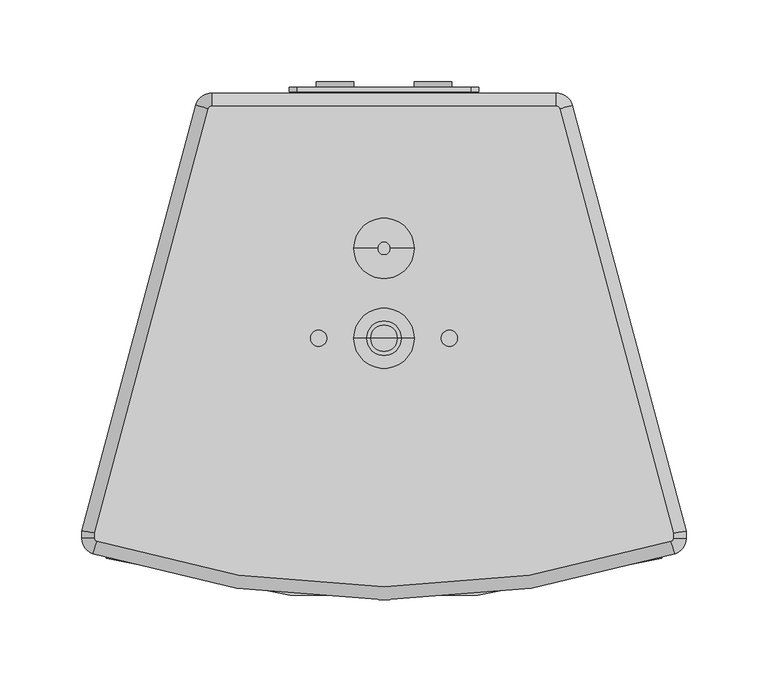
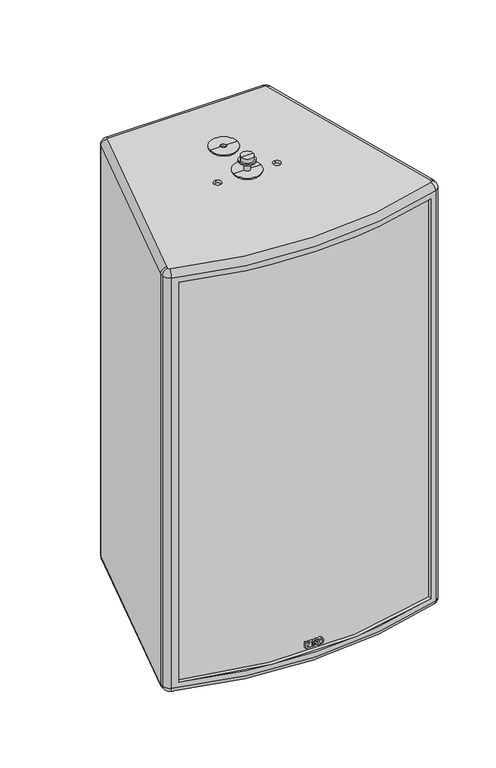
"""IFC4 building model written with IfcOpenShell, lengths in millimetres: proxy geometry, ePS12-HBRK600-WVM : ePS12-HBRK600-WVM."""

from ifc_helpers import new_model, si_unit, point, frame, frame_2d, origin, place, context, project, spatial, polyline, circle_curve, ellipse_curve, trimmed, segment, composite_curve, outline, extrude, source, transform, mapped, element, save
from ifc_brep_helpers import plane_surface, cylinder_surface, revolved_surface, advanced_brep


def generic_models_782d8a53(model_context):
    return source(origin(), model_context, "Body", "SolidModel", [
        extrude(outline(polyline([(-270.5590531, -11.9363528), (-277.8388202, -11.9363528), (-277.8388202, -10.0439855), (-273.6734899, -10.0439855), (-277.8388202, -7.2688886), (-277.8388202, -0.4179789), (-275.963849, 0.9005934), (-274.3643156, -0.1627837), (-276.2361557, -1.5323263), (-276.2361557, -4.5659556), (-274.9818684, -4.5659556), (-274.9818684, -2.2828427), (-273.3791381, -2.2828427), (-273.3791381, -4.5659556), (-272.1626349, -4.5659556), (-272.1626349, -2.1588809), (-271.3626349, -2.1588809), (-270.5599046, -2.6925396), (-270.5599046, -6.9609157), (-275.0099607, -6.9706073), (-270.5590531, -9.9098734), (-270.5590531, -11.9363528)])), frame((0.0, -464.4264204, 0.0), z_axis=(0.0, 1.0, 0.0), x_axis=(0.0, 0.0, 1.0)), (0.0, 0.0, 1.0), 3.5087945),
        extrude(outline(polyline([(-270.5590531, -2.0512245), (-278.8, 3.4273947), (-278.8, 5.6205974), (-270.5590531, 0.1419782), (-270.5590531, -2.0512245)])), frame((0.0, -464.4264204, 0.0), z_axis=(0.0, 1.0, 0.0), x_axis=(0.0, 0.0, 1.0)), (0.0, 0.0, 1.0), 3.5087945),
        extrude(outline(polyline([(-270.5590531, 4.6894095), (-270.5590531, 2.362619), (-271.8270101, 1.6148247), (-273.457904, 2.6990504), (-270.5590531, 4.6894095)])), frame((0.0, -464.4264204, 0.0), z_axis=(0.0, 1.0, 0.0), x_axis=(0.0, 0.0, 1.0)), (0.0, 0.0, 1.0), 3.5087945),
        extrude(outline(composite_curve([segment(trimmed(circle_curve(frame_2d((-274.2298911, 8.0750207)), 3.9406238), [point((-274.2298911, 4.1343969))], [point((-274.2298911, 12.0156446))], False, "CARTESIAN"), True, "CONTINUOUS"), segment(trimmed(circle_curve(frame_2d((-274.2298911, 8.0750207)), 3.9406238), [point((-274.2298911, 12.0156446))], [point((-274.2298911, 4.1343969))], False, "CARTESIAN"), True, "CONTINUOUS")], self_intersect=False), holes=[composite_curve([segment(trimmed(circle_curve(frame_2d((-274.2298911, 8.0750207)), 2.0681078), [point((-274.2298911, 6.0069129))], [point((-274.2298911, 10.1431285))], True, "CARTESIAN"), True, "CONTINUOUS"), segment(trimmed(circle_curve(frame_2d((-274.2298911, 8.0750207)), 2.0681078), [point((-274.2298911, 10.1431285))], [point((-274.2298911, 6.0069129))], True, "CARTESIAN"), True, "CONTINUOUS")], self_intersect=False)]), frame((0.0, -464.4264204, 0.0), z_axis=(0.0, 1.0, 0.0), x_axis=(0.0, 0.0, 1.0)), (0.0, 0.0, 1.0), 3.5087945),
        extrude(outline(composite_curve([segment(trimmed(circle_curve(frame_2d((-262.5, 30.0)), 11.4515227), [point((-262.5, 41.4515227))], [point((-262.5, 18.5484773))], False, "CARTESIAN"), True, "CONTINUOUS"), segment(trimmed(circle_curve(frame_2d((-262.5, 30.0)), 11.4515227), [point((-262.5, 18.5484773))], [point((-262.5, 41.4515227))], False, "CARTESIAN"), True, "CONTINUOUS")], self_intersect=False), holes=[composite_curve([segment(trimmed(circle_curve(frame_2d((-262.5, 30.0)), 5.0), [point((-262.5, 35.0))], [point((-262.5, 25.0))], True, "CARTESIAN"), True, "CONTINUOUS"), segment(trimmed(circle_curve(frame_2d((-262.5, 30.0)), 5.0), [point((-262.5, 25.0))], [point((-262.5, 35.0))], True, "CARTESIAN"), True, "CONTINUOUS")], self_intersect=False)]), frame((0.0, -152.901166, 0.0), z_axis=(0.0, 1.0, 0.0), x_axis=(0.0, 0.0, 1.0)), (0.0, 0.0, 1.0), 3.4052646),
        extrude(outline(composite_curve([segment(trimmed(circle_curve(frame_2d((-262.5, -30.0)), 11.4515227), [point((-262.5, -18.5484773))], [point((-262.5, -41.4515227))], False, "CARTESIAN"), True, "CONTINUOUS"), segment(trimmed(circle_curve(frame_2d((-262.5, -30.0)), 11.4515227), [point((-262.5, -41.4515227))], [point((-262.5, -18.5484773))], False, "CARTESIAN"), True, "CONTINUOUS")], self_intersect=False), holes=[composite_curve([segment(trimmed(circle_curve(frame_2d((-262.5, -30.0)), 5.0), [point((-262.5, -25.0))], [point((-262.5, -35.0))], True, "CARTESIAN"), True, "CONTINUOUS"), segment(trimmed(circle_curve(frame_2d((-262.5, -30.0)), 5.0), [point((-262.5, -35.0))], [point((-262.5, -25.0))], True, "CARTESIAN"), True, "CONTINUOUS")], self_intersect=False)]), frame((0.0, -152.901166, 0.0), z_axis=(0.0, 1.0, 0.0), x_axis=(0.0, 0.0, 1.0)), (0.0, 0.0, 1.0), 3.4052646),
        extrude(outline(composite_curve([segment(polyline([(-243.5, 53.0), (-243.5, -53.0)]), True, "CONTINUOUS"), segment(trimmed(circle_curve(frame_2d((-248.5, -53.0)), 5.0), [point((-243.5, -53.0))], [point((-248.5, -58.0))], False, "CARTESIAN"), True, "CONTINUOUS"), segment(polyline([(-248.5, -58.0), (-276.5, -58.0)]), True, "CONTINUOUS"), segment(trimmed(circle_curve(frame_2d((-276.5, -53.0)), 5.0), [point((-276.5, -58.0))], [point((-281.5, -53.0))], False, "CARTESIAN"), True, "CONTINUOUS"), segment(polyline([(-281.5, -53.0), (-281.5, 53.0)]), True, "CONTINUOUS"), segment(trimmed(circle_curve(frame_2d((-276.5, 53.0)), 5.0), [point((-281.5, 53.0))], [point((-276.5, 58.0))], False, "CARTESIAN"), True, "CONTINUOUS"), segment(polyline([(-276.5, 58.0), (-248.5, 58.0)]), True, "CONTINUOUS"), segment(trimmed(circle_curve(frame_2d((-248.5, 53.0)), 5.0), [point((-248.5, 58.0))], [point((-243.5, 53.0))], False, "CARTESIAN"), True, "CONTINUOUS")], self_intersect=False)), frame((0.0, -155.401166, 0.0), z_axis=(0.0, 1.0, 0.0), x_axis=(0.0, 0.0, 1.0)), (0.0, 0.0, 1.0), 2.5),
        advanced_brep(
        [(107.4481982, -166.0260055, 300.0), (105.5163465, -164.5436436, 300.0), (-105.5163465, -164.5436436, 300.0), (-107.4481982, -166.0260055, 300.0), (-177.0, -425.5968636, 300.0), (-177.0, -428.8218276, 300.0), (-175.6180478, -430.7239362, 300.0), (175.6180478, -430.7239362, 300.0), (177.0, -428.8218276, 300.0), (177.0, -425.5968636, 300.0), (0.0, -311.4959014, 300.0), (0.0, -301.4959014, 300.0), (-40.0, -311.4959014, 300.0), (-40.0, -301.4959014, 300.0), (40.0, -311.4959014, 300.0), (40.0, -301.4959014, 300.0), (105.5163465, -164.5436436, -300.0), (107.4481982, -166.0260055, -300.0), (177.0, -425.5968636, -300.0), (177.0, -428.8218276, -300.0), (175.6180478, -430.7239362, -300.0), (-175.6180478, -430.7239362, -300.0), (-177.0, -428.8218276, -300.0), (-177.0, -425.5968636, -300.0), (-107.4481982, -166.0260055, -300.0), (-105.5163465, -164.5436436, -300.0), (0.0, -301.4959014, -300.0), (0.0, -311.4959014, -300.0), (-40.0, -301.4959014, -300.0), (-40.0, -311.4959014, -300.0), (40.0, -301.4959014, -300.0), (40.0, -311.4959014, -300.0), (0.0, -301.4959014, 296.0), (0.0, -311.4959014, 296.0), (-40.0, -301.4959014, 296.0), (-40.0, -311.4959014, 296.0), (40.0, -301.4959014, 296.0), (40.0, -311.4959014, 296.0), (-170.0, -440.8954117, 285.0), (-170.0, -435.7115752, 285.0), (170.0, -435.7115752, 285.0), (170.0, -440.8954117, 285.0), (170.0, -440.8954117, -285.0), (170.0, -435.7115752, -285.0), (-170.0, -435.7115752, -285.0), (-170.0, -440.8954117, -285.0), (0.0, -301.4959014, -296.0), (0.0, -311.4959014, -296.0), (-40.0, -301.4959014, -296.0), (-40.0, -311.4959014, -296.0), (40.0, -301.4959014, -296.0), (40.0, -311.4959014, -296.0), (-29.3432823, -161.4959014, 0.0), (-40.6566026, -161.4959014, 0.0), (40.6567177, -161.4959014, 0.0), (29.3433974, -161.4959014, 0.0), (-29.3432823, -161.4959014, 70.0), (-40.6566026, -161.4959014, 70.0), (-40.6566026, -156.5436436, 0.0), (-29.3432823, -156.5436436, 0.0), (29.3433974, -156.5436436, 0.0), (40.6567177, -156.5436436, 0.0), (-105.5163465, -156.5436436, 292.0), (105.5163465, -156.5436436, 292.0), (105.5163465, -156.5436436, -292.0000078), (-105.5163465, -156.5436436, -292.0), (-40.6566026, -156.5436436, 70.0), (-29.3432823, -156.5436436, 70.0), (-115.1756048, -163.9554532, 292.0), (-115.1756048, -163.9554532, -292.0), (-185.0, -424.5436436, 292.0), (-185.0, -424.5436436, -292.0), (-185.0, -428.8218276, 292.0), (-185.0, -428.8218276, -292.0), (178.0902391, -438.3323703, 292.0), (-178.0902391, -438.3323703, 292.0), (-178.0902391, -438.3323703, -292.0000037), (178.0902391, -438.3323703, -292.0), (185.0, -424.5436436, 292.0), (185.0, -428.8218276, 292.0), (185.0, -428.8218276, -292.0), (185.0, -424.5436436, -292.0), (115.1756048, -163.9554532, 292.0), (115.1756048, -163.9554532, -292.0)],
        [
            (0, 1, circle_curve(frame((105.5163465, -166.5436436, 300.0), z_axis=(0.0, 0.0, 1.0), x_axis=(0.0, 1.0, 0.0)), 2.0)),
            (1, 2),
            (2, 3, circle_curve(frame((-105.5163465, -166.5436436, 300.0), z_axis=(0.0, 0.0, 1.0), x_axis=(-0.965925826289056, 0.25881904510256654, 0.0)), 2.0)),
            (3, 4),
            (4, 5),
            (5, 6, circle_curve(frame((-175.0, -428.8218276, 300.0), z_axis=(0.0, 0.0, 1.0), x_axis=(-0.3090239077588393, -0.9510542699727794, 0.0)), 2.0)),
            (6, 7, circle_curve(frame((0.0, 109.75947, 300.0), z_axis=(0.0, 0.0, 1.0), x_axis=(0.3090239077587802, -0.9510542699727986, 0.0)), 568.2992267)),
            (7, 8, circle_curve(frame((175.0, -428.8218276, 300.0), z_axis=(0.0, 0.0, 1.0), x_axis=(1.0, 0.0, 0.0)), 2.0)),
            (8, 9),
            (9, 0),
            (10, 11, circle_curve(frame((0.0, -306.4959014, 300.0), z_axis=(0.0, 0.0, -1.0), x_axis=(0.0, -1.0, 0.0)), 5.0)),
            (11, 10, circle_curve(frame((0.0, -306.4959014, 300.0), z_axis=(0.0, 0.0, -1.0), x_axis=(0.0, -1.0, 0.0)), 5.0)),
            (12, 13, circle_curve(frame((-40.0, -306.4959014, 300.0), z_axis=(0.0, 0.0, -1.0), x_axis=(0.0, -1.0, 0.0)), 5.0)),
            (13, 12, circle_curve(frame((-40.0, -306.4959014, 300.0), z_axis=(0.0, 0.0, -1.0), x_axis=(0.0, -1.0, 0.0)), 5.0)),
            (14, 15, circle_curve(frame((40.0, -306.4959014, 300.0), z_axis=(0.0, 0.0, -1.0), x_axis=(0.0, -1.0, 0.0)), 5.0)),
            (15, 14, circle_curve(frame((40.0, -306.4959014, 300.0), z_axis=(0.0, 0.0, -1.0), x_axis=(0.0, -1.0, 0.0)), 5.0)),
            (16, 17, circle_curve(frame((105.5163465, -166.5436436, -300.0), z_axis=(0.0, 0.0, -1.0), x_axis=(0.0, 1.0, 0.0)), 2.0)),
            (17, 18),
            (18, 19),
            (19, 20, circle_curve(frame((175.0, -428.8218276, -300.0), z_axis=(0.0, 0.0, -1.0), x_axis=(1.0, 0.0, 0.0)), 2.0)),
            (20, 21, circle_curve(frame((0.0, 109.75947, -300.0), z_axis=(0.0, 0.0, -1.0), x_axis=(0.3090239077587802, -0.9510542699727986, 0.0)), 568.2992267)),
            (21, 22, circle_curve(frame((-175.0, -428.8218276, -300.0), z_axis=(0.0, 0.0, -1.0), x_axis=(-0.3090239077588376, -0.95105426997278, 0.0)), 2.0)),
            (22, 23),
            (23, 24),
            (24, 25, circle_curve(frame((-105.5163465, -166.5436436, -300.0), z_axis=(0.0, 0.0, -1.0), x_axis=(-0.9659258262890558, 0.2588190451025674, 0.0)), 2.0)),
            (25, 16),
            (26, 27, circle_curve(frame((0.0, -306.4959014, -300.0), z_axis=(0.0, 0.0, 1.0), x_axis=(0.0, -1.0, 0.0)), 5.0)),
            (27, 26, circle_curve(frame((0.0, -306.4959014, -300.0), z_axis=(0.0, 0.0, 1.0), x_axis=(0.0, -1.0, 0.0)), 5.0)),
            (28, 29, circle_curve(frame((-40.0, -306.4959014, -300.0), z_axis=(0.0, 0.0, 1.0), x_axis=(0.0, -1.0, 0.0)), 5.0)),
            (29, 28, circle_curve(frame((-40.0, -306.4959014, -300.0), z_axis=(0.0, 0.0, 1.0), x_axis=(0.0, -1.0, 0.0)), 5.0)),
            (30, 31, circle_curve(frame((40.0, -306.4959014, -300.0), z_axis=(0.0, 0.0, 1.0), x_axis=(0.0, -1.0, 0.0)), 5.0)),
            (31, 30, circle_curve(frame((40.0, -306.4959014, -300.0), z_axis=(0.0, 0.0, 1.0), x_axis=(0.0, -1.0, 0.0)), 5.0)),
            (32, 33, circle_curve(frame((0.0, -306.4959014, 296.0), z_axis=(0.0, 0.0, 1.0), x_axis=(0.0, -1.0, 0.0)), 5.0)),
            (33, 32, circle_curve(frame((0.0, -306.4959014, 296.0), z_axis=(0.0, 0.0, 1.0), x_axis=(0.0, -1.0, 0.0)), 5.0)),
            (34, 35, circle_curve(frame((-40.0, -306.4959014, 296.0), z_axis=(0.0, 0.0, 1.0), x_axis=(0.0, -1.0, 0.0)), 5.0)),
            (35, 34, circle_curve(frame((-40.0, -306.4959014, 296.0), z_axis=(0.0, 0.0, 1.0), x_axis=(0.0, -1.0, 0.0)), 5.0)),
            (36, 37, circle_curve(frame((40.0, -306.4959014, 296.0), z_axis=(0.0, 0.0, 1.0), x_axis=(0.0, -1.0, 0.0)), 5.0)),
            (37, 36, circle_curve(frame((40.0, -306.4959014, 296.0), z_axis=(0.0, 0.0, 1.0), x_axis=(0.0, -1.0, 0.0)), 5.0)),
            (32, 11),
            (10, 33),
            (34, 13),
            (12, 35),
            (36, 15),
            (14, 37),
            (38, 39),
            (39, 40, circle_curve(frame((0.0, 116.2605092, 285.0), z_axis=(0.0, 0.0, 1.0), x_axis=(1.0, 0.0, 0.0)), 577.5579469)),
            (40, 41),
            (41, 38, circle_curve(frame((0.0, 109.75947, 285.0), z_axis=(0.0, 0.0, -1.0), x_axis=(1.0, 0.0, 0.0)), 576.2992267)),
            (42, 43),
            (43, 44, circle_curve(frame((0.0, 116.2605092, -285.0), z_axis=(0.0, 0.0, -1.0), x_axis=(1.0, 0.0, 0.0)), 577.5579469)),
            (44, 45),
            (45, 42, circle_curve(frame((0.0, 109.75947, -285.0), z_axis=(0.0, 0.0, 1.0), x_axis=(1.0, 0.0, 0.0)), 576.2992267)),
            (46, 47, circle_curve(frame((0.0, -306.4959014, -296.0), z_axis=(0.0, 0.0, -1.0), x_axis=(0.0, -1.0, 0.0)), 5.0)),
            (47, 46, circle_curve(frame((0.0, -306.4959014, -296.0), z_axis=(0.0, 0.0, -1.0), x_axis=(0.0, -1.0, 0.0)), 5.0)),
            (48, 49, circle_curve(frame((-40.0, -306.4959014, -296.0), z_axis=(0.0, 0.0, -1.0), x_axis=(0.0, -1.0, 0.0)), 5.0)),
            (49, 48, circle_curve(frame((-40.0, -306.4959014, -296.0), z_axis=(0.0, 0.0, -1.0), x_axis=(0.0, -1.0, 0.0)), 5.0)),
            (50, 51, circle_curve(frame((40.0, -306.4959014, -296.0), z_axis=(0.0, 0.0, -1.0), x_axis=(0.0, -1.0, 0.0)), 5.0)),
            (51, 50, circle_curve(frame((40.0, -306.4959014, -296.0), z_axis=(0.0, 0.0, -1.0), x_axis=(0.0, -1.0, 0.0)), 5.0)),
            (47, 27),
            (26, 46),
            (49, 29),
            (28, 48),
            (51, 31),
            (30, 50),
            (52, 53, circle_curve(frame((-34.9999424, -161.4959014, 0.0), z_axis=(0.0, 1.0, 0.0), x_axis=(-1.0, 0.0, 0.0)), 5.6566602)),
            (53, 52, circle_curve(frame((-34.9999424, -161.4959014, 0.0), z_axis=(0.0, 1.0, 0.0), x_axis=(-1.0, 0.0, 0.0)), 5.6566602)),
            (54, 55, circle_curve(frame((35.0000576, -161.4959014, 0.0), z_axis=(0.0, 1.0, 0.0), x_axis=(-1.0, 0.0, 0.0)), 5.6566602)),
            (55, 54, circle_curve(frame((35.0000576, -161.4959014, 0.0), z_axis=(0.0, 1.0, 0.0), x_axis=(-1.0, 0.0, 0.0)), 5.6566602)),
            (56, 57, circle_curve(frame((-34.9999424, -161.4959014, 70.0), z_axis=(0.0, 1.0, 0.0), x_axis=(-1.0, 0.0, 0.0)), 5.6566602)),
            (57, 56, circle_curve(frame((-34.9999424, -161.4959014, 70.0), z_axis=(0.0, 1.0, 0.0), x_axis=(-1.0, 0.0, 0.0)), 5.6566602)),
            (53, 58),
            (58, 59, circle_curve(frame((-34.9999424, -156.5436436, 0.0), z_axis=(0.0, 1.0, 0.0), x_axis=(-1.0, 0.0, 0.0)), 5.6566602)),
            (59, 52),
            (59, 58, circle_curve(frame((-34.9999424, -156.5436436, 0.0), z_axis=(0.0, 1.0, 0.0), x_axis=(-1.0, 0.0, 0.0)), 5.6566602)),
            (55, 60),
            (60, 61, circle_curve(frame((35.0000576, -156.5436436, 0.0), z_axis=(0.0, 1.0, 0.0), x_axis=(-1.0, 0.0, 0.0)), 5.6566602)),
            (61, 54),
            (61, 60, circle_curve(frame((35.0000576, -156.5436436, 0.0), z_axis=(0.0, 1.0, 0.0), x_axis=(-1.0, 0.0, 0.0)), 5.6566602)),
            (62, 63),
            (63, 64),
            (64, 65),
            (65, 62),
            (66, 67, circle_curve(frame((-34.9999424, -156.5436436, 70.0), z_axis=(0.0, -1.0, 0.0), x_axis=(-1.0, 0.0, 0.0)), 5.6566602)),
            (67, 66, circle_curve(frame((-34.9999424, -156.5436436, 70.0), z_axis=(0.0, -1.0, 0.0), x_axis=(-1.0, 0.0, 0.0)), 5.6566602)),
            (68, 62, circle_curve(frame((-105.5163465, -166.5436436, 292.0), z_axis=(0.0, 0.0, -1.0), x_axis=(1.0, 0.0, 0.0)), 10.0)),
            (65, 69, circle_curve(frame((-105.5163465, -166.5436436, -292.0), z_axis=(0.0, 0.0, 1.0), x_axis=(1.0, 0.0, 0.0)), 10.0)),
            (69, 68),
            (70, 68),
            (69, 71),
            (71, 70),
            (72, 70),
            (71, 73),
            (73, 72),
            (74, 75, circle_curve(frame((0.0, 109.75947, 292.0), z_axis=(0.0, 0.0, -1.0), x_axis=(1.0, 0.0, 0.0)), 576.2992267)),
            (75, 76),
            (76, 77, circle_curve(frame((0.0, 109.75947, -292.0), z_axis=(0.0, 0.0, 1.0), x_axis=(1.0, 0.0, 0.0)), 576.2992267)),
            (77, 74),
            (41, 42),
            (45, 38),
            (78, 79),
            (79, 80),
            (80, 81),
            (81, 78),
            (82, 78),
            (81, 83),
            (83, 82),
            (63, 82, circle_curve(frame((105.5163465, -166.5436436, 292.0), z_axis=(0.0, 0.0, -1.0), x_axis=(1.0, 0.0, 0.0)), 10.0)),
            (83, 64, circle_curve(frame((105.5163465, -166.5436436, -292.0), z_axis=(0.0, 0.0, 1.0), x_axis=(1.0, 0.0, 0.0)), 10.0)),
            (56, 67),
            (66, 57),
            (40, 43),
            (39, 44),
            (75, 72, circle_curve(frame((-175.0, -428.8218276, 292.0), z_axis=(0.0, 0.0, -1.0), x_axis=(1.0, 0.0, 0.0)), 10.0)),
            (73, 76, circle_curve(frame((-175.0, -428.8218276, -292.0), z_axis=(0.0, 0.0, 1.0), x_axis=(1.0, 0.0, 0.0)), 10.0)),
            (79, 74, circle_curve(frame((175.0, -428.8218276, 292.0), z_axis=(0.0, 0.0, -1.0), x_axis=(1.0, 0.0, 0.0)), 10.0)),
            (77, 80, circle_curve(frame((175.0, -428.8218276, -292.0), z_axis=(0.0, 0.0, 1.0), x_axis=(1.0, 0.0, 0.0)), 10.0)),
            (0, 82, circle_curve(frame((107.4481982, -166.0260055, 292.0), z_axis=(-0.2588190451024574, 0.9659258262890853, 0.0), x_axis=(0.9659258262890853, 0.2588190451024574, 0.0)), 8.0)),
            (63, 1, circle_curve(frame((105.5163465, -164.5436436, 292.0), z_axis=(1.0, 0.0, 0.0), x_axis=(0.0, 1.0, 0.0)), 8.0)),
            (9, 78, ellipse_curve(frame((177.0, -425.5968636, 292.0), z_axis=(-0.1305261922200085, 0.9914448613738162, 0.0), x_axis=(0.991444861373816, 0.13052619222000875, 0.0)), 8.0690317, 8.0)),
            (8, 79, circle_curve(frame((177.0, -428.8218276, 292.0), z_axis=(0.0, 1.0, 0.0), x_axis=(1.0, 0.0, 0.0)), 8.0)),
            (7, 74, circle_curve(frame((175.6180478, -430.7239362, 292.0), z_axis=(0.9510542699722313, 0.3090239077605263, 0.0), x_axis=(0.3090239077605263, -0.9510542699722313, 0.0)), 8.0)),
            (6, 75, circle_curve(frame((-175.6180478, -430.7239362, 292.0), z_axis=(0.951054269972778, -0.3090239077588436, 0.0), x_axis=(-0.3090239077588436, -0.951054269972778, 0.0)), 8.0)),
            (5, 72, circle_curve(frame((-177.0, -428.8218276, 292.0), z_axis=(0.0, -1.0, 0.0), x_axis=(-1.0, 0.0, 0.0)), 8.0)),
            (4, 70, ellipse_curve(frame((-177.0, -425.5968636, 292.0), z_axis=(-0.13052619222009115, -0.9914448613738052, 0.0), x_axis=(-0.9914448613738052, 0.13052619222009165, 0.0)), 8.0690317, 8.0)),
            (3, 68, circle_curve(frame((-107.4481982, -166.0260055, 292.0), z_axis=(-0.2588190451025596, -0.9659258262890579, 0.0), x_axis=(-0.9659258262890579, 0.2588190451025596, 0.0)), 8.0)),
            (2, 62, circle_curve(frame((-105.5163465, -164.5436436, 292.0), z_axis=(-1.0, 0.0, 0.0), x_axis=(0.0, 1.0, 0.0)), 8.0)),
            (83, 17, circle_curve(frame((107.4481982, -166.0260055, -292.0), z_axis=(-0.2588190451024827, 0.9659258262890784, 0.0), x_axis=(0.9659258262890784, 0.2588190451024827, 0.0)), 8.0)),
            (16, 64, circle_curve(frame((105.5163465, -164.5436436, -292.0), z_axis=(1.0, 0.0, 0.0), x_axis=(0.0, 1.0, 0.0)), 8.0)),
            (81, 18, ellipse_curve(frame((177.0, -425.5968636, -292.0), z_axis=(-0.13052619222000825, 0.9914448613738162, 0.0), x_axis=(0.991444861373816, 0.13052619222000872, 0.0)), 8.0690317, 8.0)),
            (80, 19, circle_curve(frame((177.0, -428.8218276, -292.0), z_axis=(0.0, 1.0, 0.0), x_axis=(1.0, 0.0, 0.0)), 8.0)),
            (77, 20, circle_curve(frame((175.6180478, -430.7239362, -292.0), z_axis=(0.9510542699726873, 0.30902390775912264, 0.0), x_axis=(0.30902390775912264, -0.9510542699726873, 0.0)), 8.0)),
            (76, 21, circle_curve(frame((-175.6180478, -430.7239362, -292.0), z_axis=(0.951054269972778, -0.3090239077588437, 0.0), x_axis=(-0.3090239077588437, -0.951054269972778, 0.0)), 8.0)),
            (73, 22, circle_curve(frame((-177.0, -428.8218276, -292.0), z_axis=(0.0, -1.0, 0.0), x_axis=(-1.0, 0.0, 0.0)), 8.0)),
            (71, 23, ellipse_curve(frame((-177.0, -425.5968636, -292.0), z_axis=(-0.13052619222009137, -0.9914448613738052, 0.0), x_axis=(-0.9914448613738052, 0.13052619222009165, 0.0)), 8.0690317, 8.0)),
            (69, 24, circle_curve(frame((-107.4481982, -166.0260055, -292.0), z_axis=(-0.2588190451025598, -0.9659258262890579, 0.0), x_axis=(-0.9659258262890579, 0.2588190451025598, 0.0)), 8.0)),
            (65, 25, circle_curve(frame((-105.5163465, -164.5436436, -292.0), z_axis=(-1.0, 0.0, 0.0), x_axis=(0.0, 1.0, 0.0)), 8.0)),
        ],
        [
            plane_surface(frame((-111.6724223, -156.5436436, 300.0), z_axis=(0.0, 0.0, 1.0), x_axis=(-1.0, 0.0, 0.0))),
            plane_surface(frame((-111.6724223, -156.5436436, -300.0), z_axis=(0.0, 0.0, -1.0), x_axis=(1.0, 0.0, 0.0))),
            plane_surface(frame((0.0, -311.4959014, 296.0), z_axis=(0.0, 0.0, 1.0), x_axis=(-1.0, 0.0, 0.0))),
            revolved_surface(polyline([(0.0, -311.4959014, 300.0), (0.0, -311.4959014, 296.0)]), (0.0, -306.4959014, 296.0), (0.0, 0.0, 1.0)),
            revolved_surface(polyline([(-40.0, -311.4959014, 300.0), (-40.0, -311.4959014, 296.0)]), (-40.0, -306.4959014, 300.0), (0.0, 0.0, 1.0)),
            revolved_surface(polyline([(40.0, -311.4959014, 300.0), (40.0, -311.4959014, 296.0)]), (40.0, -306.4959014, 300.0), (0.0, 0.0, 1.0)),
            plane_surface(frame((170.0, -440.8954117, 285.0), z_axis=(0.0, 0.0, -1.0), x_axis=(0.0, 1.0, 0.0))),
            plane_surface(frame((170.0, -440.8954117, -285.0), z_axis=(0.0, 0.0, 1.0), x_axis=(0.0, -1.0, 0.0))),
            plane_surface(frame((0.0, -311.4959014, -296.0), z_axis=(0.0, 0.0, -1.0), x_axis=(1.0, 0.0, 0.0))),
            revolved_surface(polyline([(0.0, -311.4959014, -296.0), (0.0, -311.4959014, -300.0)]), (0.0, -306.4959014, -304.0), (0.0, 0.0, 1.0)),
            revolved_surface(polyline([(-40.0, -311.4959014, -296.0), (-40.0, -311.4959014, -300.0)]), (-40.0, -306.4959014, -300.0), (0.0, 0.0, 1.0)),
            revolved_surface(polyline([(40.0, -311.4959014, -296.0), (40.0, -311.4959014, -300.0)]), (40.0, -306.4959014, -300.0), (0.0, 0.0, 1.0)),
            plane_surface(frame((-40.6566026, -161.4959014, 0.0), z_axis=(0.0, 1.0, 0.0), x_axis=(0.0, 0.0, -1.0))),
            revolved_surface(polyline([(-40.6566026, -156.5436436, 0.0), (-40.6566026, -161.4959014, 0.0)]), (-34.9999424, -161.4959014, 0.0), (0.0, 1.0, 0.0)),
            revolved_surface(polyline([(29.343397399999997, -156.5436436, 0.0), (29.343397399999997, -161.4959014, 0.0)]), (35.0000576, -149.4959014, 0.0), (0.0, 1.0, 0.0)),
            plane_surface(frame((105.5163465, -156.5436436, 300.0), z_axis=(0.0, 1.0, 0.0), x_axis=(0.0, 0.0, -1.0))),
            cylinder_surface(frame((-105.5163465, -166.5436436, -300.0), z_axis=(0.0, 0.0, 1.0), x_axis=(1.0, 0.0, 0.0)), 10.0),
            plane_surface(frame((-115.1756048, -163.9554532, 300.0), z_axis=(-0.9659258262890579, 0.2588190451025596, 0.0), x_axis=(0.0, 0.0, -1.0))),
            plane_surface(frame((-185.0, -424.5436436, 300.0), z_axis=(-1.0, 0.0, 0.0), x_axis=(0.0, 0.0, -1.0))),
            cylinder_surface(frame((0.0, 109.75947, -300.0), z_axis=(0.0, 0.0, 1.0), x_axis=(1.0, 0.0, 0.0)), 576.2992267),
            plane_surface(frame((185.0, -428.8218276, 300.0), z_axis=(1.0, 0.0, 0.0), x_axis=(0.0, 0.0, -1.0))),
            plane_surface(frame((185.0, -424.5436436, 300.0), z_axis=(0.9659258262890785, 0.25881904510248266, 0.0), x_axis=(0.0, 0.0, -1.0))),
            cylinder_surface(frame((105.5163465, -166.5436436, -300.0), z_axis=(0.0, 0.0, 1.0), x_axis=(1.0, 0.0, 0.0)), 10.0),
            revolved_surface(polyline([(-40.6566026, -156.5436436, 70.0), (-40.6566026, -161.4959014, 70.0)]), (-34.9999424, -149.4959014, 70.0), (0.0, 1.0, 0.0)),
            plane_surface(frame((170.0, -440.8954117, 285.0), z_axis=(-1.0, 0.0, 0.0), x_axis=(0.0, 0.0, -1.0))),
            cylinder_surface(frame((0.0, 116.2605092, -285.0), z_axis=(0.0, 0.0, -1.0), x_axis=(1.0, 0.0, 0.0)), 577.5579469),
            plane_surface(frame((-170.0, -435.7115752, 285.0), z_axis=(1.0, 0.0, 0.0), x_axis=(0.0, 0.0, -1.0))),
            cylinder_surface(frame((-175.0, -428.8218276, -300.0), z_axis=(0.0, 0.0, 1.0), x_axis=(1.0, 0.0, 0.0)), 10.0),
            cylinder_surface(frame((175.0, -428.8218276, -300.0), z_axis=(0.0, 0.0, 1.0), x_axis=(1.0, 0.0, 0.0)), 10.0),
            revolved_surface(trimmed(ellipse_curve(frame((105.5163465, -164.5436436, 292.0), z_axis=(-1.0, 0.0, 0.0), x_axis=(0.0, 1.0, 0.0)), 8.0, 8.0), [point((105.5163465, -164.5436436, 300.0))], [point((105.5163465, -156.5436436, 292.0))], True, "CARTESIAN"), (105.5163465, -166.5436436, 300.0), (0.0, 0.0, -1.0)),
            cylinder_surface(frame((107.4481982, -166.0260055, 292.0), z_axis=(0.2588190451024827, -0.9659258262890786, 0.0), x_axis=(0.9659258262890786, 0.2588190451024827, 0.0)), 8.0),
            cylinder_surface(frame((177.0, -424.5436436, 292.0), z_axis=(0.0, -1.0, 0.0), x_axis=(1.0, 0.0, 0.0)), 8.0),
            revolved_surface(trimmed(ellipse_curve(frame((177.0, -428.8218276, 292.0), z_axis=(0.0, 1.0, 0.0), x_axis=(1.0, 0.0, 0.0)), 8.0, 8.0), [point((177.0, -428.8218276, 300.0))], [point((185.0, -428.8218276, 292.0))], True, "CARTESIAN"), (175.0, -428.8218276, 300.0), (0.0, 0.0, -1.0)),
            revolved_surface(trimmed(ellipse_curve(frame((175.6180478, -430.7239362, 292.0), z_axis=(0.9510542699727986, 0.3090239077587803, 0.0), x_axis=(0.3090239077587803, -0.9510542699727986, 0.0)), 8.0, 8.0), [point((175.6180478, -430.7239362, 300.0))], [point((178.0902391, -438.3323703, 292.0))], True, "CARTESIAN"), (0.0, 109.75947, 300.0), (0.0, 0.0, -1.0)),
            revolved_surface(trimmed(ellipse_curve(frame((-175.6180478, -430.7239362, 292.0), z_axis=(0.9510542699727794, -0.3090239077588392, 0.0), x_axis=(-0.3090239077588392, -0.9510542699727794, 0.0)), 8.0, 8.0), [point((-175.6180478, -430.7239362, 300.0))], [point((-178.0902391, -438.3323703, 292.0))], True, "CARTESIAN"), (-175.0, -428.8218276, 300.0), (0.0, 0.0, -1.0)),
            cylinder_surface(frame((-177.0, -428.8218276, 292.0), z_axis=(0.0, 1.0, 0.0), x_axis=(-1.0, 0.0, 0.0)), 8.0),
            cylinder_surface(frame((-177.2725934, -426.614196, 292.0), z_axis=(0.2588190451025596, 0.9659258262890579, 0.0), x_axis=(-0.9659258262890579, 0.2588190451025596, 0.0)), 8.0),
            revolved_surface(trimmed(ellipse_curve(frame((-107.4481982, -166.0260055, 292.0), z_axis=(-0.2588190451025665, -0.965925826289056, 0.0), x_axis=(-0.965925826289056, 0.2588190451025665, 0.0)), 8.0, 8.0), [point((-107.4481982, -166.0260055, 300.0))], [point((-115.1756048, -163.9554532, 292.0))], True, "CARTESIAN"), (-105.5163465, -166.5436436, 300.0), (0.0, 0.0, -1.0)),
            cylinder_surface(frame((-105.5163465, -164.5436436, 292.0), z_axis=(1.0, 0.0, 0.0), x_axis=(0.0, 1.0, 0.0)), 8.0),
            revolved_surface(trimmed(ellipse_curve(frame((105.5163465, -164.5436436, -292.0), z_axis=(-1.0, 0.0, 0.0), x_axis=(0.0, 1.0, 0.0)), 8.0, 8.0), [point((105.5163465, -156.5436436, -292.0))], [point((105.5163465, -164.5436436, -300.0))], True, "CARTESIAN"), (105.5163465, -166.5436436, -300.0), (0.0, 0.0, -1.0)),
            cylinder_surface(frame((107.4481982, -166.0260055, -292.0), z_axis=(0.2588190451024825, -0.9659258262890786, 0.0), x_axis=(0.9659258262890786, 0.2588190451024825, 0.0)), 8.0),
            cylinder_surface(frame((177.0, -424.5436436, -292.0), z_axis=(0.0, -1.0, 0.0), x_axis=(1.0, 0.0, 0.0)), 8.0),
            revolved_surface(trimmed(ellipse_curve(frame((177.0, -428.8218276, -292.0), z_axis=(0.0, 1.0, 0.0), x_axis=(1.0, 0.0, 0.0)), 8.0, 8.0), [point((185.0, -428.8218276, -292.0))], [point((177.0, -428.8218276, -300.0))], True, "CARTESIAN"), (175.0, -428.8218276, -300.0), (0.0, 0.0, -1.0)),
            revolved_surface(trimmed(ellipse_curve(frame((175.6180478, -430.7239362, -292.0), z_axis=(0.9510542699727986, 0.3090239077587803, 0.0), x_axis=(0.3090239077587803, -0.9510542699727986, 0.0)), 8.0, 8.0), [point((178.0902391, -438.3323703, -292.0))], [point((175.6180478, -430.7239362, -300.0))], True, "CARTESIAN"), (0.0, 109.75947, -300.0), (0.0, 0.0, -1.0)),
            revolved_surface(trimmed(ellipse_curve(frame((-175.6180478, -430.7239362, -292.0), z_axis=(0.95105426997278, -0.30902390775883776, 0.0), x_axis=(-0.30902390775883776, -0.95105426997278, 0.0)), 8.0, 8.0), [point((-178.0902391, -438.3323703, -292.0))], [point((-175.6180478, -430.7239362, -300.0))], True, "CARTESIAN"), (-175.0, -428.8218276, -300.0), (0.0, 0.0, -1.0)),
            cylinder_surface(frame((-177.0, -428.8218276, -292.0), z_axis=(0.0, 1.0, 0.0), x_axis=(-1.0, 0.0, 0.0)), 8.0),
            cylinder_surface(frame((-177.2725934, -426.614196, -292.0), z_axis=(0.2588190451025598, 0.9659258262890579, 0.0), x_axis=(-0.9659258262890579, 0.2588190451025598, 0.0)), 8.0),
            revolved_surface(trimmed(ellipse_curve(frame((-107.4481982, -166.0260055, -292.0), z_axis=(-0.2588190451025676, -0.9659258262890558, 0.0), x_axis=(-0.9659258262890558, 0.2588190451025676, 0.0)), 8.0, 8.0), [point((-115.1756048, -163.9554532, -292.0))], [point((-107.4481982, -166.0260055, -300.0))], True, "CARTESIAN"), (-105.5163465, -166.5436436, -300.0), (0.0, 0.0, -1.0)),
            cylinder_surface(frame((-105.5163465, -164.5436436, -292.0), z_axis=(1.0, 0.0, 0.0), x_axis=(0.0, 1.0, 0.0)), 8.0),
        ],
        [
            (0, [[1, 2, 3, 4, 5, 6, 7, 8, 9, 10], [11, 12], [13, 14], [15, 16]]),
            (1, [[17, 18, 19, 20, 21, 22, 23, 24, 25, 26], [27, 28], [29, 30], [31, 32]]),
            (2, [[33, 34]]),
            (2, [[35, 36]]),
            (2, [[37, 38]]),
            (3, [[-33, 39, -11, 40]]),
            (3, [[-34, -40, -12, -39]]),
            (4, [[-35, 41, -13, 42]]),
            (4, [[-36, -42, -14, -41]]),
            (5, [[-37, 43, -15, 44]]),
            (5, [[-38, -44, -16, -43]]),
            (6, [[45, 46, 47, 48]]),
            (7, [[49, 50, 51, 52]]),
            (8, [[53, 54]]),
            (8, [[55, 56]]),
            (8, [[57, 58]]),
            (9, [[-54, 59, -27, 60]]),
            (9, [[-53, -60, -28, -59]]),
            (10, [[-56, 61, -29, 62]]),
            (10, [[-55, -62, -30, -61]]),
            (11, [[-58, 63, -31, 64]]),
            (11, [[-57, -64, -32, -63]]),
            (12, [[65, 66]]),
            (12, [[67, 68]]),
            (12, [[69, 70]]),
            (13, [[-66, 71, 72, 73]]),
            (13, [[-65, -73, 74, -71]]),
            (14, [[-68, 75, 76, 77]]),
            (14, [[-67, -77, 78, -75]]),
            (15, [[79, 80, 81, 82], [-72, -74], [-76, -78], [83, 84]]),
            (16, [[85, -82, 86, 87]]),
            (17, [[88, -87, 89, 90]]),
            (18, [[91, -90, 92, 93]]),
            (19, [[94, 95, 96, 97], [-48, 98, -52, 99]]),
            (20, [[100, 101, 102, 103]]),
            (21, [[104, -103, 105, 106]]),
            (22, [[107, -106, 108, -80]]),
            (23, [[-69, 109, -83, 110]]),
            (23, [[-70, -110, -84, -109]]),
            (24, [[-47, 111, -49, -98]]),
            (25, [[-46, 112, -50, -111]]),
            (26, [[-45, -99, -51, -112]]),
            (27, [[113, -93, 114, -95]]),
            (28, [[115, -97, 116, -101]]),
            (29, [[117, -107, 118, -1]]),
            (30, [[-117, -10, 119, -104]]),
            (31, [[-119, -9, 120, -100]]),
            (32, [[-120, -8, 121, -115]]),
            (33, [[-121, -7, 122, -94]]),
            (34, [[-122, -6, 123, -113]]),
            (35, [[-123, -5, 124, -91]]),
            (36, [[-124, -4, 125, -88]]),
            (37, [[-125, -3, 126, -85]]),
            (38, [[-118, -79, -126, -2]]),
            (39, [[127, -17, 128, -108]]),
            (40, [[-127, -105, 129, -18]]),
            (41, [[-129, -102, 130, -19]]),
            (42, [[-130, -116, 131, -20]]),
            (43, [[-131, -96, 132, -21]]),
            (44, [[-132, -114, 133, -22]]),
            (45, [[-133, -92, 134, -23]]),
            (46, [[-134, -89, 135, -24]]),
            (47, [[-135, -86, 136, -25]]),
            (48, [[-128, -26, -136, -81]]),
        ],
    ),
        advanced_brep(
        [(3.972567, -251.5012591, 305.0), (-3.972567, -251.5012591, 305.0), (-18.442415, -251.5012591, 305.0), (18.442415, -251.5012591, 305.0), (-15.442415, -251.5012591, 302.0), (15.442415, -251.5012591, 302.0), (-3.972567, -251.5012591, 302.0), (3.972567, -251.5012591, 302.0)],
        [
            (0, 1, circle_curve(frame((0.0, -251.5012591, 305.0), z_axis=(0.0, 0.0, -1.0), x_axis=(-1.0, 0.0, 0.0)), 3.972567)),
            (1, 2),
            (2, 3, circle_curve(frame((0.0, -251.5012591, 305.0), z_axis=(0.0, 0.0, 1.0), x_axis=(-1.0, 0.0, 0.0)), 18.442415)),
            (3, 0),
            (1, 0, circle_curve(frame((0.0, -251.5012591, 305.0), z_axis=(0.0, 0.0, -1.0), x_axis=(-1.0, 0.0, 0.0)), 3.972567)),
            (3, 2, circle_curve(frame((0.0, -251.5012591, 305.0), z_axis=(0.0, 0.0, 1.0), x_axis=(-1.0, 0.0, 0.0)), 18.442415)),
            (2, 4, circle_curve(frame((-15.442415, -251.5012591, 305.0), z_axis=(0.0, -1.0, 0.0), x_axis=(0.0, 0.0, -1.0)), 3.0)),
            (4, 5, circle_curve(frame((0.0, -251.5012591, 302.0), z_axis=(0.0, 0.0, 1.0), x_axis=(-1.0, 0.0, 0.0)), 15.442415)),
            (5, 3, circle_curve(frame((15.442415, -251.5012591, 305.0), z_axis=(0.0, -1.0, 0.0), x_axis=(0.0, 0.0, -1.0)), 3.0)),
            (5, 4, circle_curve(frame((0.0, -251.5012591, 302.0), z_axis=(0.0, 0.0, 1.0), x_axis=(-1.0, 0.0, 0.0)), 15.442415)),
            (4, 6),
            (6, 7, circle_curve(frame((0.0, -251.5012591, 302.0), z_axis=(0.0, 0.0, 1.0), x_axis=(-1.0, 0.0, 0.0)), 3.972567)),
            (7, 5),
            (7, 6, circle_curve(frame((0.0, -251.5012591, 302.0), z_axis=(0.0, 0.0, 1.0), x_axis=(-1.0, 0.0, 0.0)), 3.972567)),
            (6, 1),
            (0, 7),
        ],
        [
            plane_surface(frame((0.0, -251.5012591, 305.0), z_axis=(0.0, 0.0, 1.0), x_axis=(-1.0, 0.0, 0.0))),
            revolved_surface(trimmed(ellipse_curve(frame((-15.442415, -251.5012591, 305.0), z_axis=(0.0, 1.0, 0.0), x_axis=(0.0, 0.0, -1.0)), 3.0, 3.0), [point((-15.442415, -251.5012591, 302.0))], [point((-18.442415, -251.5012591, 305.0))], True, "CARTESIAN"), (0.0, -251.5012591, 292.2578639), (0.0, 0.0, 1.0)),
            plane_surface(frame((0.0, -251.5012591, 302.0), z_axis=(0.0, 0.0, -1.0), x_axis=(-1.0, 0.0, 0.0))),
            revolved_surface(polyline([(-3.972567, -251.5012591, 305.0), (-3.972567, -251.5012591, 302.0)]), (0.0, -251.5012591, 292.2578639), (0.0, 0.0, 1.0)),
        ],
        [
            (0, [[1, 2, 3, 4]]),
            (0, [[5, -4, 6, -2]]),
            (1, [[-3, 7, 8, 9]]),
            (1, [[-6, -9, 10, -7]]),
            (2, [[-8, 11, 12, 13]]),
            (2, [[-10, -13, 14, -11]]),
            (3, [[-12, 15, -1, 16]]),
            (3, [[-14, -16, -5, -15]]),
        ],
    ),
        advanced_brep(
        [(18.442415, -251.5012591, -305.0), (-18.442415, -251.5012591, -305.0), (-3.972567, -251.5012591, -305.0), (3.972567, -251.5012591, -305.0), (15.442415, -251.5012591, -302.0), (-15.442415, -251.5012591, -302.0), (3.972567, -251.5012591, -302.0), (-3.972567, -251.5012591, -302.0)],
        [
            (0, 1, circle_curve(frame((0.0, -251.5012591, -305.0), z_axis=(0.0, 0.0, -1.0), x_axis=(-1.0, 0.0, 0.0)), 18.442415)),
            (1, 2),
            (2, 3, circle_curve(frame((0.0, -251.5012591, -305.0), z_axis=(0.0, 0.0, 1.0), x_axis=(-1.0, 0.0, 0.0)), 3.972567)),
            (3, 0),
            (1, 0, circle_curve(frame((0.0, -251.5012591, -305.0), z_axis=(0.0, 0.0, -1.0), x_axis=(-1.0, 0.0, 0.0)), 18.442415)),
            (3, 2, circle_curve(frame((0.0, -251.5012591, -305.0), z_axis=(0.0, 0.0, 1.0), x_axis=(-1.0, 0.0, 0.0)), 3.972567)),
            (4, 5, circle_curve(frame((0.0, -251.5012591, -302.0), z_axis=(0.0, 0.0, -1.0), x_axis=(-1.0, 0.0, 0.0)), 15.442415)),
            (5, 1, circle_curve(frame((-15.442415, -251.5012591, -305.0), z_axis=(0.0, -1.0, 0.0), x_axis=(0.0, 0.0, 1.0)), 3.0)),
            (0, 4, circle_curve(frame((15.442415, -251.5012591, -305.0), z_axis=(0.0, -1.0, 0.0), x_axis=(0.0, 0.0, 1.0)), 3.0)),
            (5, 4, circle_curve(frame((0.0, -251.5012591, -302.0), z_axis=(0.0, 0.0, -1.0), x_axis=(-1.0, 0.0, 0.0)), 15.442415)),
            (6, 7, circle_curve(frame((0.0, -251.5012591, -302.0), z_axis=(0.0, 0.0, -1.0), x_axis=(-1.0, 0.0, 0.0)), 3.972567)),
            (7, 5),
            (4, 6),
            (7, 6, circle_curve(frame((0.0, -251.5012591, -302.0), z_axis=(0.0, 0.0, -1.0), x_axis=(-1.0, 0.0, 0.0)), 3.972567)),
            (2, 7),
            (6, 3),
        ],
        [
            plane_surface(frame((0.0, -251.5012591, -305.0), z_axis=(0.0, 0.0, -1.0), x_axis=(-1.0, 0.0, 0.0))),
            revolved_surface(trimmed(ellipse_curve(frame((-15.442415, -251.5012591, -305.0), z_axis=(0.0, 1.0, 0.0), x_axis=(0.0, 0.0, 1.0)), 3.0, 3.0), [point((-18.442415, -251.5012591, -305.0))], [point((-15.442415, -251.5012591, -302.0))], True, "CARTESIAN"), (0.0, -251.5012591, -292.2578639), (0.0, 0.0, 1.0)),
            plane_surface(frame((0.0, -251.5012591, -302.0), z_axis=(0.0, 0.0, 1.0), x_axis=(-1.0, 0.0, 0.0))),
            revolved_surface(polyline([(-3.972567, -251.5012591, -302.0), (-3.972567, -251.5012591, -305.0)]), (0.0, -251.5012591, -292.2578639), (0.0, 0.0, 1.0)),
        ],
        [
            (0, [[1, 2, 3, 4]]),
            (0, [[5, -4, 6, -2]]),
            (1, [[7, 8, -1, 9]]),
            (1, [[10, -9, -5, -8]]),
            (2, [[11, 12, -7, 13]]),
            (2, [[14, -13, -10, -12]]),
            (3, [[-3, 15, -11, 16]]),
            (3, [[-6, -16, -14, -15]]),
        ],
    ),
        advanced_brep(
        [(4.0553577, -306.5012591, 305.0), (-4.0553577, -306.5012591, 305.0), (-18.442415, -306.5012591, 305.0), (18.442415, -306.5012591, 305.0), (-15.442415, -306.5012591, 302.0), (15.442415, -306.5012591, 302.0), (-4.0553577, -306.5012591, 302.0), (4.0553577, -306.5012591, 302.0), (-4.0553577, -306.5012591, 299.0), (4.0553577, -306.5012591, 299.0), (0.0, -306.5012591, 299.0), (0.0, -306.5012591, 325.0), (-8.0750303, -306.5012591, 325.0), (8.0750303, -306.5012591, 325.0), (-8.0750303, -306.5012591, 319.0), (8.0750303, -306.5012591, 319.0), (-10.555922, -306.5012591, 319.0), (10.555922, -306.5012591, 319.0), (-10.555922, -306.5012591, 317.0), (10.555922, -306.5012591, 317.0), (-4.0553577, -306.5012591, 317.0), (4.0553577, -306.5012591, 317.0)],
        [
            (0, 1, circle_curve(frame((0.0, -306.5012591, 305.0), z_axis=(0.0, 0.0, -1.0), x_axis=(-1.0, 0.0, 0.0)), 4.0553577)),
            (1, 2),
            (2, 3, circle_curve(frame((0.0, -306.5012591, 305.0), z_axis=(0.0, 0.0, 1.0), x_axis=(-1.0, 0.0, 0.0)), 18.442415)),
            (3, 0),
            (1, 0, circle_curve(frame((0.0, -306.5012591, 305.0), z_axis=(0.0, 0.0, -1.0), x_axis=(-1.0, 0.0, 0.0)), 4.0553577)),
            (3, 2, circle_curve(frame((0.0, -306.5012591, 305.0), z_axis=(0.0, 0.0, 1.0), x_axis=(-1.0, 0.0, 0.0)), 18.442415)),
            (2, 4, circle_curve(frame((-15.442415, -306.5012591, 305.0), z_axis=(0.0, -1.0, 0.0), x_axis=(0.0, 0.0, -1.0)), 3.0)),
            (4, 5, circle_curve(frame((0.0, -306.5012591, 302.0), z_axis=(0.0, 0.0, 1.0), x_axis=(-1.0, 0.0, 0.0)), 15.442415)),
            (5, 3, circle_curve(frame((15.442415, -306.5012591, 305.0), z_axis=(0.0, -1.0, 0.0), x_axis=(0.0, 0.0, -1.0)), 3.0)),
            (5, 4, circle_curve(frame((0.0, -306.5012591, 302.0), z_axis=(0.0, 0.0, 1.0), x_axis=(-1.0, 0.0, 0.0)), 15.442415)),
            (4, 6),
            (6, 7, circle_curve(frame((0.0, -306.5012591, 302.0), z_axis=(0.0, 0.0, 1.0), x_axis=(-1.0, 0.0, 0.0)), 4.0553577)),
            (7, 5),
            (7, 6, circle_curve(frame((0.0, -306.5012591, 302.0), z_axis=(0.0, 0.0, 1.0), x_axis=(-1.0, 0.0, 0.0)), 4.0553577)),
            (6, 8),
            (8, 9, circle_curve(frame((0.0, -306.5012591, 299.0), z_axis=(0.0, 0.0, 1.0), x_axis=(-1.0, 0.0, 0.0)), 4.0553577)),
            (9, 7),
            (9, 8, circle_curve(frame((0.0, -306.5012591, 299.0), z_axis=(0.0, 0.0, 1.0), x_axis=(-1.0, 0.0, 0.0)), 4.0553577)),
            (8, 10),
            (10, 9),
            (11, 12),
            (12, 13, circle_curve(frame((0.0, -306.5012591, 325.0), z_axis=(0.0, 0.0, 1.0), x_axis=(-1.0, 0.0, 0.0)), 8.0750303)),
            (13, 11),
            (13, 12, circle_curve(frame((0.0, -306.5012591, 325.0), z_axis=(0.0, 0.0, 1.0), x_axis=(-1.0, 0.0, 0.0)), 8.0750303)),
            (12, 14),
            (14, 15, circle_curve(frame((0.0, -306.5012591, 319.0), z_axis=(0.0, 0.0, 1.0), x_axis=(-1.0, 0.0, 0.0)), 8.0750303)),
            (15, 13),
            (15, 14, circle_curve(frame((0.0, -306.5012591, 319.0), z_axis=(0.0, 0.0, 1.0), x_axis=(-1.0, 0.0, 0.0)), 8.0750303)),
            (14, 16),
            (16, 17, circle_curve(frame((0.0, -306.5012591, 319.0), z_axis=(0.0, 0.0, 1.0), x_axis=(-1.0, 0.0, 0.0)), 10.555922)),
            (17, 15),
            (17, 16, circle_curve(frame((0.0, -306.5012591, 319.0), z_axis=(0.0, 0.0, 1.0), x_axis=(-1.0, 0.0, 0.0)), 10.555922)),
            (16, 18),
            (18, 19, circle_curve(frame((0.0, -306.5012591, 317.0), z_axis=(0.0, 0.0, 1.0), x_axis=(-1.0, 0.0, 0.0)), 10.555922)),
            (19, 17),
            (19, 18, circle_curve(frame((0.0, -306.5012591, 317.0), z_axis=(0.0, 0.0, 1.0), x_axis=(-1.0, 0.0, 0.0)), 10.555922)),
            (18, 20),
            (20, 21, circle_curve(frame((0.0, -306.5012591, 317.0), z_axis=(0.0, 0.0, 1.0), x_axis=(-1.0, 0.0, 0.0)), 4.0553577)),
            (21, 19),
            (21, 20, circle_curve(frame((0.0, -306.5012591, 317.0), z_axis=(0.0, 0.0, 1.0), x_axis=(-1.0, 0.0, 0.0)), 4.0553577)),
            (20, 1),
            (0, 21),
        ],
        [
            plane_surface(frame((0.0, -306.5012591, 305.0), z_axis=(0.0, 0.0, 1.0), x_axis=(-1.0, 0.0, 0.0))),
            revolved_surface(trimmed(ellipse_curve(frame((-15.442415, -306.5012591, 305.0), z_axis=(0.0, 1.0, 0.0), x_axis=(0.0, 0.0, -1.0)), 3.0, 3.0), [point((-15.442415, -306.5012591, 302.0))], [point((-18.442415, -306.5012591, 305.0))], True, "CARTESIAN"), (0.0, -306.5012591, 292.2578639), (0.0, 0.0, 1.0)),
            plane_surface(frame((0.0, -306.5012591, 302.0), z_axis=(0.0, 0.0, -1.0), x_axis=(-1.0, 0.0, 0.0))),
            cylinder_surface(frame((0.0, -306.5012591, 292.2578639), z_axis=(0.0, 0.0, 1.0), x_axis=(-1.0, 0.0, 0.0)), 4.0553577),
            plane_surface(frame((0.0, -306.5012591, 299.0), z_axis=(0.0, 0.0, -1.0), x_axis=(-1.0, 0.0, 0.0))),
            plane_surface(frame((0.0, -306.5012591, 325.0), z_axis=(0.0, 0.0, 1.0), x_axis=(-1.0, 0.0, 0.0))),
            cylinder_surface(frame((0.0, -306.5012591, 292.2578639), z_axis=(0.0, 0.0, 1.0), x_axis=(-1.0, 0.0, 0.0)), 8.0750303),
            plane_surface(frame((0.0, -306.5012591, 319.0), z_axis=(0.0, 0.0, 1.0), x_axis=(-1.0, 0.0, 0.0))),
            cylinder_surface(frame((0.0, -306.5012591, 292.2578639), z_axis=(0.0, 0.0, 1.0), x_axis=(-1.0, 0.0, 0.0)), 10.555922),
            plane_surface(frame((0.0, -306.5012591, 317.0), z_axis=(0.0, 0.0, -1.0), x_axis=(-1.0, 0.0, 0.0))),
        ],
        [
            (0, [[1, 2, 3, 4]]),
            (0, [[5, -4, 6, -2]]),
            (1, [[-3, 7, 8, 9]]),
            (1, [[-6, -9, 10, -7]]),
            (2, [[-8, 11, 12, 13]]),
            (2, [[-10, -13, 14, -11]]),
            (3, [[-12, 15, 16, 17]]),
            (3, [[-14, -17, 18, -15]]),
            (4, [[-16, 19, 20]]),
            (4, [[-18, -20, -19]]),
            (5, [[21, 22, 23]]),
            (5, [[-23, 24, -21]]),
            (6, [[-22, 25, 26, 27]]),
            (6, [[-24, -27, 28, -25]]),
            (7, [[-26, 29, 30, 31]]),
            (7, [[-28, -31, 32, -29]]),
            (8, [[-30, 33, 34, 35]]),
            (8, [[-32, -35, 36, -33]]),
            (9, [[-34, 37, 38, 39]]),
            (9, [[-36, -39, 40, -37]]),
            (3, [[-38, 41, -1, 42]]),
            (3, [[-40, -42, -5, -41]]),
        ],
    ),
        advanced_brep(
        [(18.442415, -306.5012591, -305.0), (-18.442415, -306.5012591, -305.0), (-4.0553577, -306.5012591, -305.0), (4.0553577, -306.5012591, -305.0), (15.442415, -306.5012591, -302.0), (-15.442415, -306.5012591, -302.0), (4.0553577, -306.5012591, -302.0), (-4.0553577, -306.5012591, -302.0), (4.0553577, -306.5012591, -299.0), (-4.0553577, -306.5012591, -299.0), (0.0, -306.5012591, -299.0), (8.0750303, -306.5012591, -325.0), (-8.0750303, -306.5012591, -325.0), (0.0, -306.5012591, -325.0), (8.0750303, -306.5012591, -319.0), (-8.0750303, -306.5012591, -319.0), (10.555922, -306.5012591, -319.0), (-10.555922, -306.5012591, -319.0), (10.555922, -306.5012591, -317.0), (-10.555922, -306.5012591, -317.0), (4.0553577, -306.5012591, -317.0), (-4.0553577, -306.5012591, -317.0)],
        [
            (0, 1, circle_curve(frame((0.0, -306.5012591, -305.0), z_axis=(0.0, 0.0, -1.0), x_axis=(-1.0, 0.0, 0.0)), 18.442415)),
            (1, 2),
            (2, 3, circle_curve(frame((0.0, -306.5012591, -305.0), z_axis=(0.0, 0.0, 1.0), x_axis=(-1.0, 0.0, 0.0)), 4.0553577)),
            (3, 0),
            (1, 0, circle_curve(frame((0.0, -306.5012591, -305.0), z_axis=(0.0, 0.0, -1.0), x_axis=(-1.0, 0.0, 0.0)), 18.442415)),
            (3, 2, circle_curve(frame((0.0, -306.5012591, -305.0), z_axis=(0.0, 0.0, 1.0), x_axis=(-1.0, 0.0, 0.0)), 4.0553577)),
            (4, 5, circle_curve(frame((0.0, -306.5012591, -302.0), z_axis=(0.0, 0.0, -1.0), x_axis=(-1.0, 0.0, 0.0)), 15.442415)),
            (5, 1, circle_curve(frame((-15.442415, -306.5012591, -305.0), z_axis=(0.0, -1.0, 0.0), x_axis=(0.0, 0.0, 1.0)), 3.0)),
            (0, 4, circle_curve(frame((15.442415, -306.5012591, -305.0), z_axis=(0.0, -1.0, 0.0), x_axis=(0.0, 0.0, 1.0)), 3.0)),
            (5, 4, circle_curve(frame((0.0, -306.5012591, -302.0), z_axis=(0.0, 0.0, -1.0), x_axis=(-1.0, 0.0, 0.0)), 15.442415)),
            (6, 7, circle_curve(frame((0.0, -306.5012591, -302.0), z_axis=(0.0, 0.0, -1.0), x_axis=(-1.0, 0.0, 0.0)), 4.0553577)),
            (7, 5),
            (4, 6),
            (7, 6, circle_curve(frame((0.0, -306.5012591, -302.0), z_axis=(0.0, 0.0, -1.0), x_axis=(-1.0, 0.0, 0.0)), 4.0553577)),
            (8, 9, circle_curve(frame((0.0, -306.5012591, -299.0), z_axis=(0.0, 0.0, -1.0), x_axis=(-1.0, 0.0, 0.0)), 4.0553577)),
            (9, 7),
            (6, 8),
            (9, 8, circle_curve(frame((0.0, -306.5012591, -299.0), z_axis=(0.0, 0.0, -1.0), x_axis=(-1.0, 0.0, 0.0)), 4.0553577)),
            (10, 9),
            (8, 10),
            (11, 12, circle_curve(frame((0.0, -306.5012591, -325.0), z_axis=(0.0, 0.0, -1.0), x_axis=(-1.0, 0.0, 0.0)), 8.0750303)),
            (12, 13),
            (13, 11),
            (12, 11, circle_curve(frame((0.0, -306.5012591, -325.0), z_axis=(0.0, 0.0, -1.0), x_axis=(-1.0, 0.0, 0.0)), 8.0750303)),
            (14, 15, circle_curve(frame((0.0, -306.5012591, -319.0), z_axis=(0.0, 0.0, -1.0), x_axis=(-1.0, 0.0, 0.0)), 8.0750303)),
            (15, 12),
            (11, 14),
            (15, 14, circle_curve(frame((0.0, -306.5012591, -319.0), z_axis=(0.0, 0.0, -1.0), x_axis=(-1.0, 0.0, 0.0)), 8.0750303)),
            (16, 17, circle_curve(frame((0.0, -306.5012591, -319.0), z_axis=(0.0, 0.0, -1.0), x_axis=(-1.0, 0.0, 0.0)), 10.555922)),
            (17, 15),
            (14, 16),
            (17, 16, circle_curve(frame((0.0, -306.5012591, -319.0), z_axis=(0.0, 0.0, -1.0), x_axis=(-1.0, 0.0, 0.0)), 10.555922)),
            (18, 19, circle_curve(frame((0.0, -306.5012591, -317.0), z_axis=(0.0, 0.0, -1.0), x_axis=(-1.0, 0.0, 0.0)), 10.555922)),
            (19, 17),
            (16, 18),
            (19, 18, circle_curve(frame((0.0, -306.5012591, -317.0), z_axis=(0.0, 0.0, -1.0), x_axis=(-1.0, 0.0, 0.0)), 10.555922)),
            (20, 21, circle_curve(frame((0.0, -306.5012591, -317.0), z_axis=(0.0, 0.0, -1.0), x_axis=(-1.0, 0.0, 0.0)), 4.0553577)),
            (21, 19),
            (18, 20),
            (21, 20, circle_curve(frame((0.0, -306.5012591, -317.0), z_axis=(0.0, 0.0, -1.0), x_axis=(-1.0, 0.0, 0.0)), 4.0553577)),
            (2, 21),
            (20, 3),
        ],
        [
            plane_surface(frame((0.0, -306.5012591, -305.0), z_axis=(0.0, 0.0, -1.0), x_axis=(-1.0, 0.0, 0.0))),
            revolved_surface(trimmed(ellipse_curve(frame((-15.442415, -306.5012591, -305.0), z_axis=(0.0, 1.0, 0.0), x_axis=(0.0, 0.0, 1.0)), 3.0, 3.0), [point((-18.442415, -306.5012591, -305.0))], [point((-15.442415, -306.5012591, -302.0))], True, "CARTESIAN"), (0.0, -306.5012591, -292.2578639), (0.0, 0.0, 1.0)),
            plane_surface(frame((0.0, -306.5012591, -302.0), z_axis=(0.0, 0.0, 1.0), x_axis=(-1.0, 0.0, 0.0))),
            cylinder_surface(frame((0.0, -306.5012591, -292.2578639), z_axis=(0.0, 0.0, 1.0), x_axis=(-1.0, 0.0, 0.0)), 4.0553577),
            plane_surface(frame((0.0, -306.5012591, -299.0), z_axis=(0.0, 0.0, 1.0), x_axis=(-1.0, 0.0, 0.0))),
            plane_surface(frame((0.0, -306.5012591, -325.0), z_axis=(0.0, 0.0, -1.0), x_axis=(-1.0, 0.0, 0.0))),
            cylinder_surface(frame((0.0, -306.5012591, -292.2578639), z_axis=(0.0, 0.0, 1.0), x_axis=(-1.0, 0.0, 0.0)), 8.0750303),
            plane_surface(frame((0.0, -306.5012591, -319.0), z_axis=(0.0, 0.0, -1.0), x_axis=(-1.0, 0.0, 0.0))),
            cylinder_surface(frame((0.0, -306.5012591, -292.2578639), z_axis=(0.0, 0.0, 1.0), x_axis=(-1.0, 0.0, 0.0)), 10.555922),
            plane_surface(frame((0.0, -306.5012591, -317.0), z_axis=(0.0, 0.0, 1.0), x_axis=(-1.0, 0.0, 0.0))),
        ],
        [
            (0, [[1, 2, 3, 4]]),
            (0, [[5, -4, 6, -2]]),
            (1, [[7, 8, -1, 9]]),
            (1, [[10, -9, -5, -8]]),
            (2, [[11, 12, -7, 13]]),
            (2, [[14, -13, -10, -12]]),
            (3, [[15, 16, -11, 17]]),
            (3, [[18, -17, -14, -16]]),
            (4, [[19, -15, 20]]),
            (4, [[-20, -18, -19]]),
            (5, [[21, 22, 23]]),
            (5, [[24, -23, -22]]),
            (6, [[25, 26, -21, 27]]),
            (6, [[28, -27, -24, -26]]),
            (7, [[29, 30, -25, 31]]),
            (7, [[32, -31, -28, -30]]),
            (8, [[33, 34, -29, 35]]),
            (8, [[36, -35, -32, -34]]),
            (9, [[37, 38, -33, 39]]),
            (9, [[40, -39, -36, -38]]),
            (3, [[-3, 41, -37, 42]]),
            (3, [[-6, -42, -40, -41]]),
        ],
    ),
    ])


if __name__ == "__main__":
    model = new_model("IFC4")
    model_context = context("Model", 3, world=origin())
    ifc_project = project(units=[si_unit("LENGTHUNIT", "METRE", prefix="MILLI")], contexts=[model_context])
    site = spatial("IfcSite", under=ifc_project)
    building = spatial("IfcBuilding", under=site)
    placement = place(None, origin())
    generic_models_shape = generic_models_782d8a53(model_context)
    element("IfcBuildingElementProxy", 1, Name="ePS12-HBRK600-WVM : ePS12-HBRK600-WVM", ObjectType="ePS12-HBRK600-WVM : ePS12-HBRK600-WVM", at=placement, inside=building, context=model_context, shape_type="MappedRepresentation", body=[
        mapped(generic_models_shape, transform((0.0, 0.0, 0.0), x_axis=(1.0, 0.0, 0.0), y_axis=(0.0, 1.0, 0.0), z_axis=(0.0, 0.0, 1.0))),
    ])
    save(model, "model.ifc")
